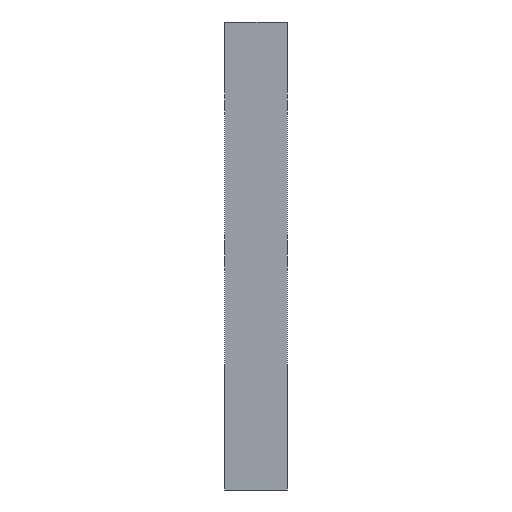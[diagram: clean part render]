
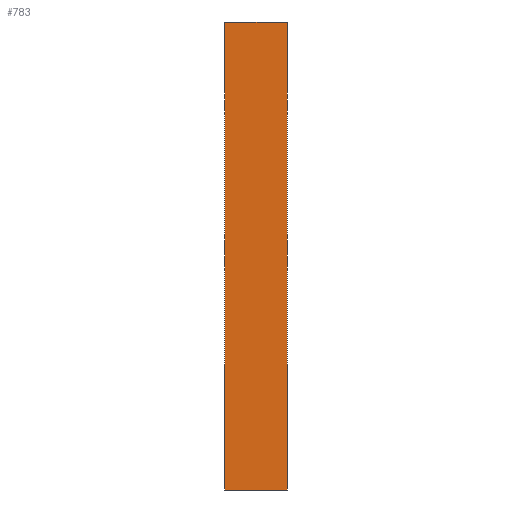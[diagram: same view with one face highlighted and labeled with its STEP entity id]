
A CAD part, left-side view. The second image highlights one B-rep face of the part: STEP entity #783.
In plain terms, the highlighted planar face has unit normal (-1, 0, 0).
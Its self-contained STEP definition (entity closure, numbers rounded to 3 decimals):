
#71=PLANE('',#898);
#106=FACE_OUTER_BOUND('',#142,.T.);
#142=EDGE_LOOP('',(#634,#635,#636,#637));
#234=LINE('',#1314,#278);
#235=LINE('',#1316,#279);
#236=LINE('',#1318,#280);
#237=LINE('',#1319,#281);
#278=VECTOR('',#1108,10.);
#279=VECTOR('',#1109,10.);
#280=VECTOR('',#1110,10.);
#281=VECTOR('',#1111,10.);
#408=VERTEX_POINT('',#1312);
#409=VERTEX_POINT('',#1313);
#410=VERTEX_POINT('',#1315);
#411=VERTEX_POINT('',#1317);
#504=EDGE_CURVE('',#408,#409,#234,.T.);
#505=EDGE_CURVE('',#409,#410,#235,.T.);
#506=EDGE_CURVE('',#411,#410,#236,.T.);
#507=EDGE_CURVE('',#408,#411,#237,.T.);
#634=ORIENTED_EDGE('',*,*,#504,.T.);
#635=ORIENTED_EDGE('',*,*,#505,.T.);
#636=ORIENTED_EDGE('',*,*,#506,.F.);
#637=ORIENTED_EDGE('',*,*,#507,.F.);
#783=ADVANCED_FACE('',(#106),#71,.T.);
#898=AXIS2_PLACEMENT_3D('',#1311,#1106,#1107);
#1106=DIRECTION('center_axis',(-1.,0.,0.));
#1107=DIRECTION('ref_axis',(0.,0.,1.));
#1108=DIRECTION('',(0.,0.,1.));
#1109=DIRECTION('',(0.,1.,0.));
#1110=DIRECTION('',(0.,0.,1.));
#1111=DIRECTION('',(0.,1.,0.));
#1311=CARTESIAN_POINT('Origin',(-250.,0.,-75.));
#1312=CARTESIAN_POINT('',(-250.,0.,-75.));
#1313=CARTESIAN_POINT('',(-250.,0.,0.));
#1314=CARTESIAN_POINT('',(-250.,0.,-75.));
#1315=CARTESIAN_POINT('',(-250.,10.,0.));
#1316=CARTESIAN_POINT('',(-250.,0.,0.));
#1317=CARTESIAN_POINT('',(-250.,10.,-75.));
#1318=CARTESIAN_POINT('',(-250.,10.,-75.));
#1319=CARTESIAN_POINT('',(-250.,0.,-75.));
